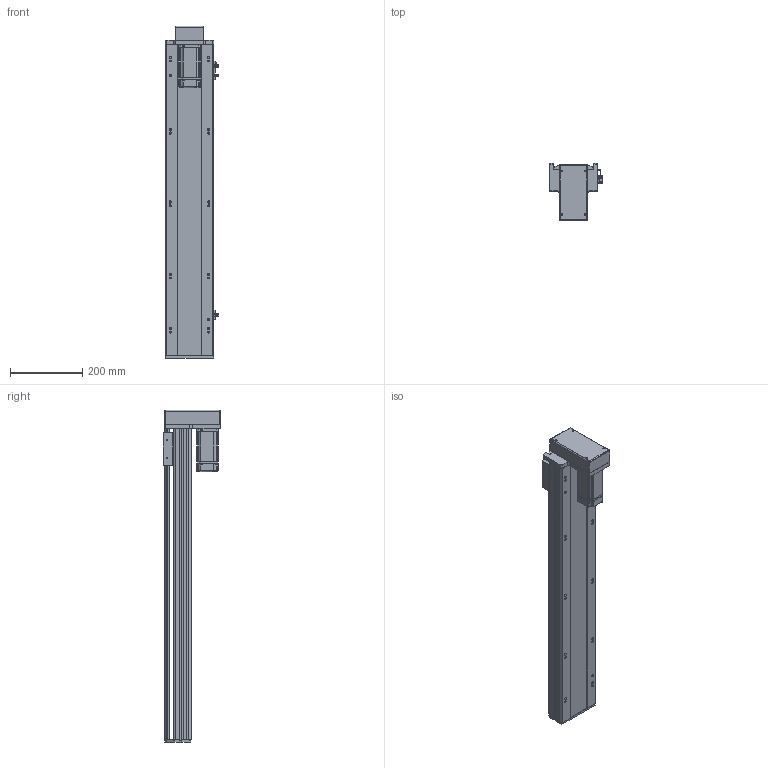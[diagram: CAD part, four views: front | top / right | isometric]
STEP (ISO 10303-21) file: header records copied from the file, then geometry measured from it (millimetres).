
FILE_DESCRIPTION (( 'STEP AP214' ), '1' );
FILE_NAME ('QTH13-700-BM-P40.STEP', '2022-05-24T09:30:32', ( '' ), ( '' ), 'SwSTEP 2.0', 'SolidWorks 2020', '' );
FILE_SCHEMA (( 'AUTOMOTIVE_DESIGN' ));
Length unit declared in the file: millimetre
Products named in the file (6): 葩璃 QTH14-BM-002 奻裔MZ-135-02^QTH13-BM-P40; 葩璃 QTH13-BM-001 菁釱MZ-135-01^QTH13-BM-P40; 葩璃 pm-t65-672^QTH13-BM-P40; QTH13-700-BM-P40; 葩璃 400W^QTH13-BM-P40; 葩璃 QTH13-BC-005 賑釱MZ-135-03^QTH13-BM-P40_SFA16
Assembly tree (7 placements, depth 2):
  QTH13-700-BM-P40
    葩璃 QTH13-BM-001 菁釱MZ-135-01^QTH13-BM-P40
    葩璃 QTH14-BM-002 奻裔MZ-135-02^QTH13-BM-P40
    葩璃 QTH13-BC-005 賑釱MZ-135-03^QTH13-BM-P40_SFA16
    葩璃 pm-t65-672^QTH13-BM-P40  x3
    葩璃 400W^QTH13-BM-P40
Bounding box: 148.7 x 159.1 x 918.5 mm (x, y, z)
Volume: 6653269.5 mm3; surface area: 808687.7 mm2
Topology: 12 solids, 12 shells, 1283 faces, 3402 edges, 2194 vertices
Faces by surface type: plane 733, cylinder 436, cone 88, bspline 26
Entity records: 34286 total; most frequent: CARTESIAN_POINT 6477, DIRECTION 5655, ORIENTED_EDGE 5420, EDGE_CURVE 2710, AXIS2_PLACEMENT_3D 1950, VERTEX_POINT 1770, VECTOR 1755, LINE 1755
